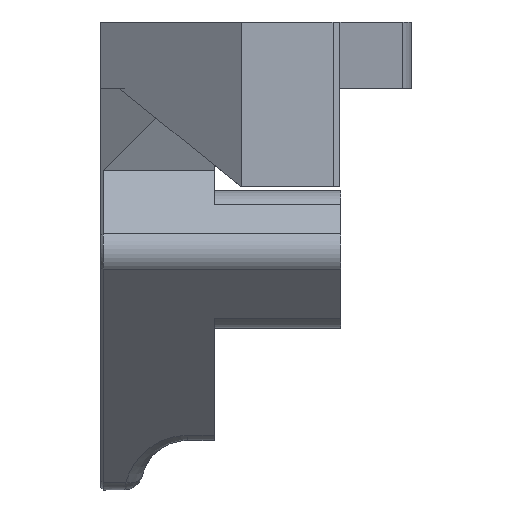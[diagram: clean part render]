
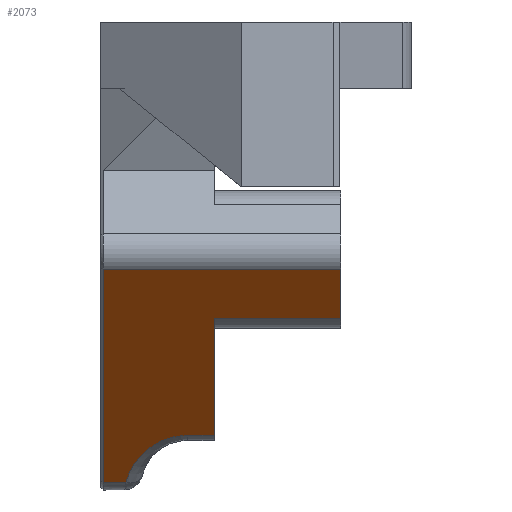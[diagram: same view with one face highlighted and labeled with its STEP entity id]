
A CAD part, left-side view. The second image highlights one B-rep face of the part: STEP entity #2073.
In plain terms, the highlighted planar face has unit normal (-0.707, 0, -0.707).
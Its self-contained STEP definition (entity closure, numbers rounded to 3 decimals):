
#18=ELLIPSE('',#2207,7.778,5.5);
#63=PLANE('',#2225);
#213=FACE_OUTER_BOUND('',#340,.T.);
#340=EDGE_LOOP('',(#1503,#1504,#1505,#1506,#1507,#1508,#1509,#1510));
#479=LINE('',#3290,#649);
#487=LINE('',#3463,#657);
#488=LINE('',#3465,#658);
#489=LINE('',#3467,#659);
#490=LINE('',#3469,#660);
#491=LINE('',#3471,#661);
#492=LINE('',#3472,#662);
#649=VECTOR('',#2443,10.);
#657=VECTOR('',#2495,10.);
#658=VECTOR('',#2496,10.);
#659=VECTOR('',#2497,10.);
#660=VECTOR('',#2498,10.);
#661=VECTOR('',#2499,10.);
#662=VECTOR('',#2500,2.133);
#920=VERTEX_POINT('',#3287);
#921=VERTEX_POINT('',#3289);
#923=VERTEX_POINT('',#3336);
#939=VERTEX_POINT('',#3462);
#940=VERTEX_POINT('',#3464);
#941=VERTEX_POINT('',#3466);
#942=VERTEX_POINT('',#3468);
#943=VERTEX_POINT('',#3470);
#1133=EDGE_CURVE('',#920,#921,#479,.T.);
#1138=EDGE_CURVE('',#921,#923,#18,.T.);
#1160=EDGE_CURVE('',#920,#939,#487,.T.);
#1161=EDGE_CURVE('',#940,#939,#488,.T.);
#1162=EDGE_CURVE('',#941,#940,#489,.T.);
#1163=EDGE_CURVE('',#942,#941,#490,.T.);
#1164=EDGE_CURVE('',#943,#942,#491,.T.);
#1165=EDGE_CURVE('',#923,#943,#492,.T.);
#1503=ORIENTED_EDGE('',*,*,#1138,.F.);
#1504=ORIENTED_EDGE('',*,*,#1133,.F.);
#1505=ORIENTED_EDGE('',*,*,#1160,.T.);
#1506=ORIENTED_EDGE('',*,*,#1161,.F.);
#1507=ORIENTED_EDGE('',*,*,#1162,.F.);
#1508=ORIENTED_EDGE('',*,*,#1163,.F.);
#1509=ORIENTED_EDGE('',*,*,#1164,.F.);
#1510=ORIENTED_EDGE('',*,*,#1165,.F.);
#2073=ADVANCED_FACE('',(#213),#63,.T.);
#2207=AXIS2_PLACEMENT_3D('',#3340,#2451,#2452);
#2225=AXIS2_PLACEMENT_3D('',#3461,#2493,#2494);
#2443=DIRECTION('',(0.,1.,0.));
#2451=DIRECTION('center_axis',(-0.707,0.,
-0.707));
#2452=DIRECTION('ref_axis',(-0.707,0.,0.707));
#2493=DIRECTION('center_axis',(-0.707,0.,
-0.707));
#2494=DIRECTION('ref_axis',(0.707,0.,-0.707));
#2495=DIRECTION('',(-0.707,0.,0.707));
#2496=DIRECTION('',(0.,1.,0.));
#2497=DIRECTION('',(0.707,0.,-0.707));
#2498=DIRECTION('',(0.,-1.,0.));
#2499=DIRECTION('',(-0.707,0.,0.707));
#2500=DIRECTION('',(0.,1.,0.));
#3287=CARTESIAN_POINT('',(18.839,42.458,2.172));
#3289=CARTESIAN_POINT('',(18.839,44.75,2.172));
#3290=CARTESIAN_POINT('',(18.839,48.454,2.172));
#3336=CARTESIAN_POINT('',(22.898,50.058,-1.887));
#3340=CARTESIAN_POINT('Origin',(24.339,44.75,-3.328));
#3461=CARTESIAN_POINT('Origin',(4.55,51.908,16.462));
#3462=CARTESIAN_POINT('',(8.775,42.458,12.237));
#3463=CARTESIAN_POINT('',(6.651,42.458,14.36));
#3464=CARTESIAN_POINT('',(8.775,31.62,12.237));
#3465=CARTESIAN_POINT('',(8.775,46.636,12.237));
#3466=CARTESIAN_POINT('',(4.55,31.62,16.462));
#3467=CARTESIAN_POINT('',(10.867,31.62,10.145));
#3468=CARTESIAN_POINT('',(4.55,52.008,16.462));
#3469=CARTESIAN_POINT('',(4.55,40.858,16.462));
#3470=CARTESIAN_POINT('',(22.898,52.008,-1.887));
#3471=CARTESIAN_POINT('',(10.867,52.008,10.145));
#3472=CARTESIAN_POINT('',(22.898,50.261,-1.887));
